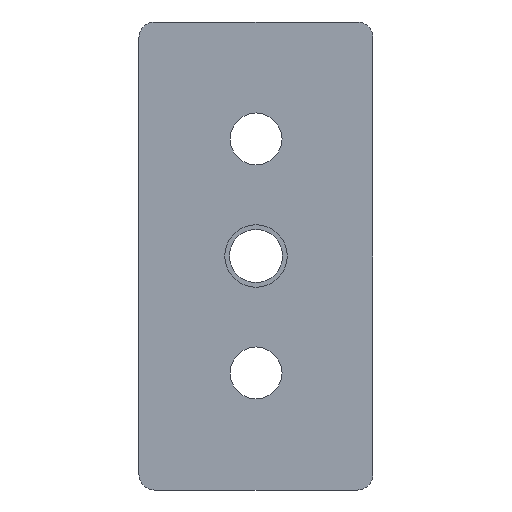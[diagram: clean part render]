
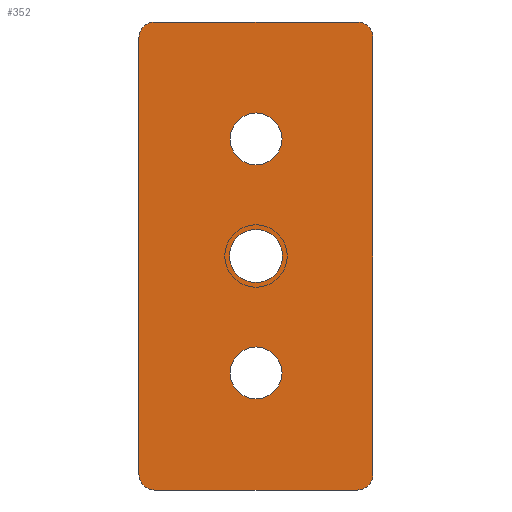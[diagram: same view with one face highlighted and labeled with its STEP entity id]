
A CAD part, front view. The second image highlights one B-rep face of the part: STEP entity #352.
In plain terms, the highlighted planar face has unit normal (0, -1, 0).
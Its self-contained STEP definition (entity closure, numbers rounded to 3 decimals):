
#1=CARTESIAN_POINT('',(0.,0.,-22.5));
#2=DIRECTION('',(0.,-1.,0.));
#3=DIRECTION('',(1.,0.,0.));
#4=AXIS2_PLACEMENT_3D('',#1,#2,#3);
#6=CARTESIAN_POINT('',(0.,0.,-22.5));
#7=DIRECTION('',(0.,-1.,0.));
#8=DIRECTION('',(-1.,0.,0.));
#9=AXIS2_PLACEMENT_3D('',#6,#7,#8);
#11=CARTESIAN_POINT('',(0.,0.,22.5));
#12=DIRECTION('',(0.,-1.,0.));
#13=DIRECTION('',(1.,0.,0.));
#14=AXIS2_PLACEMENT_3D('',#11,#12,#13);
#16=CARTESIAN_POINT('',(0.,0.,22.5));
#17=DIRECTION('',(0.,-1.,0.));
#18=DIRECTION('',(-1.,0.,0.));
#19=AXIS2_PLACEMENT_3D('',#16,#17,#18);
#21=CARTESIAN_POINT('',(0.,0.,0.));
#22=DIRECTION('',(0.,1.,0.));
#23=DIRECTION('',(1.,0.,0.));
#24=AXIS2_PLACEMENT_3D('',#21,#22,#23);
#26=CARTESIAN_POINT('',(0.,0.,0.));
#27=DIRECTION('',(0.,1.,0.));
#28=DIRECTION('',(-1.,0.,0.));
#29=AXIS2_PLACEMENT_3D('',#26,#27,#28);
#31=DIRECTION('',(0.,0.,-1.));
#32=VECTOR('',#31,84.);
#33=CARTESIAN_POINT('',(22.5,0.,42.));
#34=LINE('',#33,#32);
#35=DIRECTION('',(-1.,0.,0.));
#36=VECTOR('',#35,39.);
#37=CARTESIAN_POINT('',(19.5,0.,-45.));
#38=LINE('',#37,#36);
#39=DIRECTION('',(0.,0.,1.));
#40=VECTOR('',#39,84.);
#41=CARTESIAN_POINT('',(-22.5,0.,-42.));
#42=LINE('',#41,#40);
#43=DIRECTION('',(1.,0.,0.));
#44=VECTOR('',#43,39.);
#45=CARTESIAN_POINT('',(-19.5,0.,45.));
#46=LINE('',#45,#44);
#184=CARTESIAN_POINT('',(19.5,0.,42.));
#185=DIRECTION('',(0.,-1.,0.));
#186=DIRECTION('',(1.,0.,0.));
#187=AXIS2_PLACEMENT_3D('',#184,#185,#186);
#202=CARTESIAN_POINT('',(-19.5,0.,42.));
#203=DIRECTION('',(0.,-1.,0.));
#204=DIRECTION('',(0.,0.,1.));
#205=AXIS2_PLACEMENT_3D('',#202,#203,#204);
#220=CARTESIAN_POINT('',(-19.5,0.,-42.));
#221=DIRECTION('',(0.,-1.,0.));
#222=DIRECTION('',(-1.,0.,0.));
#223=AXIS2_PLACEMENT_3D('',#220,#221,#222);
#238=CARTESIAN_POINT('',(19.5,0.,-42.));
#239=DIRECTION('',(0.,-1.,0.));
#240=DIRECTION('',(0.,0.,-1.));
#241=AXIS2_PLACEMENT_3D('',#238,#239,#240);
#243=CARTESIAN_POINT('',(5.,0.,-22.5));
#244=CARTESIAN_POINT('',(-5.,0.,-22.5));
#245=VERTEX_POINT('',#243);
#246=VERTEX_POINT('',#244);
#247=CARTESIAN_POINT('',(5.,0.,22.5));
#248=CARTESIAN_POINT('',(-5.,0.,22.5));
#249=VERTEX_POINT('',#247);
#250=VERTEX_POINT('',#248);
#271=CARTESIAN_POINT('',(5.1,0.,0.));
#272=CARTESIAN_POINT('',(-5.1,0.,0.));
#273=VERTEX_POINT('',#271);
#274=VERTEX_POINT('',#272);
#280=CARTESIAN_POINT('',(19.5,0.,45.));
#282=VERTEX_POINT('',#280);
#285=CARTESIAN_POINT('',(22.5,0.,42.));
#286=VERTEX_POINT('',#285);
#288=CARTESIAN_POINT('',(-22.5,0.,42.));
#290=VERTEX_POINT('',#288);
#293=CARTESIAN_POINT('',(-19.5,0.,45.));
#294=VERTEX_POINT('',#293);
#296=CARTESIAN_POINT('',(22.5,0.,-42.));
#298=VERTEX_POINT('',#296);
#301=CARTESIAN_POINT('',(19.5,0.,-45.));
#302=VERTEX_POINT('',#301);
#304=CARTESIAN_POINT('',(-19.5,0.,-45.));
#306=VERTEX_POINT('',#304);
#309=CARTESIAN_POINT('',(-22.5,0.,-42.));
#310=VERTEX_POINT('',#309);
#311=CARTESIAN_POINT('',(0.,0.,0.));
#312=DIRECTION('',(0.,1.,0.));
#313=DIRECTION('',(1.,0.,0.));
#314=AXIS2_PLACEMENT_3D('',#311,#312,#313);
#315=PLANE('',#314);
#317=ORIENTED_EDGE('',*,*,#316,.F.);
#319=ORIENTED_EDGE('',*,*,#318,.T.);
#321=ORIENTED_EDGE('',*,*,#320,.F.);
#323=ORIENTED_EDGE('',*,*,#322,.T.);
#325=ORIENTED_EDGE('',*,*,#324,.F.);
#327=ORIENTED_EDGE('',*,*,#326,.T.);
#329=ORIENTED_EDGE('',*,*,#328,.F.);
#331=ORIENTED_EDGE('',*,*,#330,.T.);
#332=EDGE_LOOP('',(#317,#319,#321,#323,#325,#327,#329,#331));
#333=FACE_OUTER_BOUND('',#332,.F.);
#335=ORIENTED_EDGE('',*,*,#334,.T.);
#337=ORIENTED_EDGE('',*,*,#336,.T.);
#338=EDGE_LOOP('',(#335,#337));
#339=FACE_BOUND('',#338,.F.);
#341=ORIENTED_EDGE('',*,*,#340,.T.);
#343=ORIENTED_EDGE('',*,*,#342,.T.);
#344=EDGE_LOOP('',(#341,#343));
#345=FACE_BOUND('',#344,.F.);
#347=ORIENTED_EDGE('',*,*,#346,.F.);
#349=ORIENTED_EDGE('',*,*,#348,.F.);
#350=EDGE_LOOP('',(#347,#349));
#351=FACE_BOUND('',#350,.F.);
#352=ADVANCED_FACE('',(#333,#339,#345,#351),#315,.F.);
#5=CIRCLE('',#4,5.);
#10=CIRCLE('',#9,5.);
#15=CIRCLE('',#14,5.);
#20=CIRCLE('',#19,5.);
#25=CIRCLE('',#24,5.1);
#30=CIRCLE('',#29,5.1);
#188=CIRCLE('',#187,3.);
#206=CIRCLE('',#205,3.);
#224=CIRCLE('',#223,3.);
#242=CIRCLE('',#241,3.);
#316=EDGE_CURVE('',#286,#282,#188,.T.);
#318=EDGE_CURVE('',#286,#298,#34,.T.);
#320=EDGE_CURVE('',#302,#298,#242,.T.);
#322=EDGE_CURVE('',#302,#306,#38,.T.);
#324=EDGE_CURVE('',#310,#306,#224,.T.);
#326=EDGE_CURVE('',#310,#290,#42,.T.);
#328=EDGE_CURVE('',#294,#290,#206,.T.);
#330=EDGE_CURVE('',#294,#282,#46,.T.);
#334=EDGE_CURVE('',#245,#246,#5,.T.);
#336=EDGE_CURVE('',#246,#245,#10,.T.);
#340=EDGE_CURVE('',#249,#250,#15,.T.);
#342=EDGE_CURVE('',#250,#249,#20,.T.);
#346=EDGE_CURVE('',#273,#274,#25,.T.);
#348=EDGE_CURVE('',#274,#273,#30,.T.);
